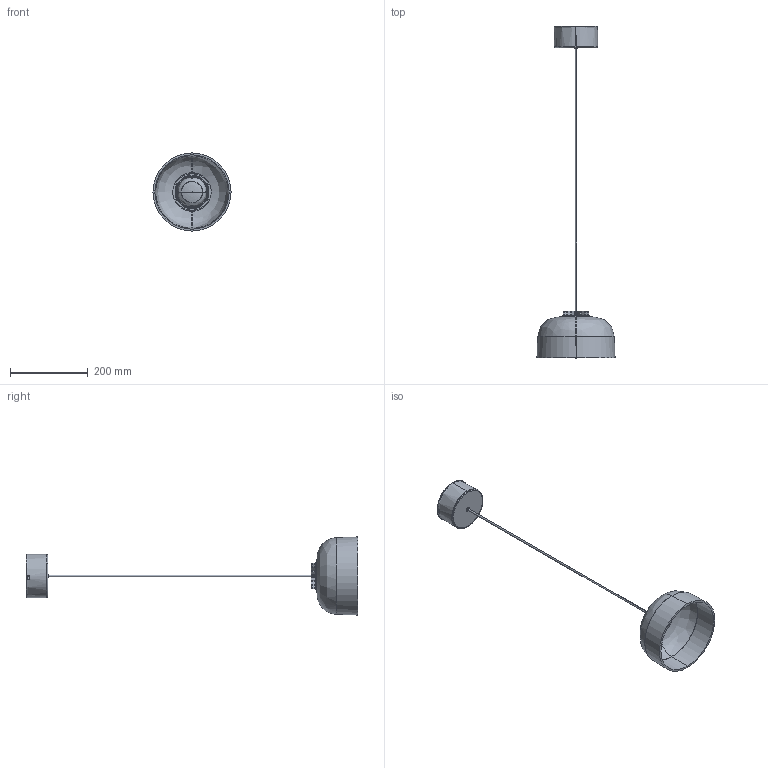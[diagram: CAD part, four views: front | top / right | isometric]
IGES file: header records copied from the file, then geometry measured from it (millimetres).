
Start section: SolidWorks IGES file using analytic representation for surfaces
Global section: file name: C:\SANTACOLE_PDM\Proyectos Catálogo\PROD-P13-003 -- CÁPSULA HEAD LED\6_Técnico comercial\3D\Bowl\HeadHat Bowl L.IGS; native system: SolidWorks 2019; preprocessor: SolidWorks 2019; author: aina.morell; date: 200406.174126; units: millimetre
Bounding box: 201.41 x 856.17 x 201.41 mm (x, y, z)
Surface area: 290571.4 mm2 (no closed solid volume)
Topology: 0 solids, 0 shells, 1720 faces, 19316 edges, 19301 vertices
Faces by surface type: bspline 1465, revolution 255
